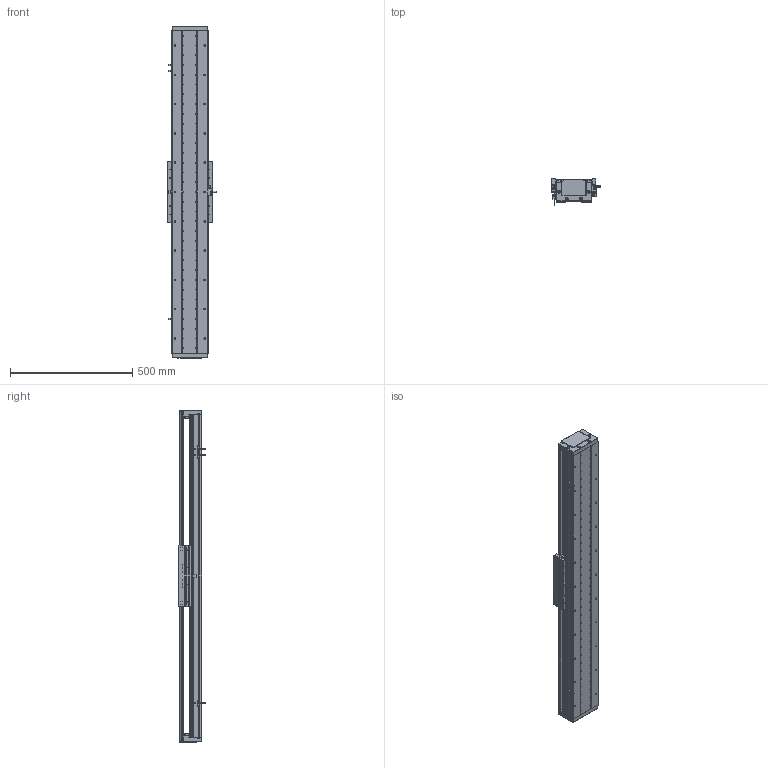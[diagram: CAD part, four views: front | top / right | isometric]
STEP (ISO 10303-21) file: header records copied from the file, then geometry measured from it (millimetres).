
FILE_DESCRIPTION (( 'STEP AP203' ), '1' );
FILE_NAME ('DA-C145-C3-T1020-C010-0.2 眻盄萇儂.STEP', '2025-08-14T01:20:17', ( '' ), ( '' ), 'SwSTEP 2.0', 'SolidWorks 2019', '' );
FILE_SCHEMA (( 'CONFIG_CONTROL_DESIGN' ));
Length unit declared in the file: millimetre
Products named in the file (29): 葩璃 DA145-C3-DP-B-00 菜えB^CU145-W 幗紩賑怢; 复件 DA145-C3-YB-B-00 压板B^CU145-W 滚珠滑台; 复件 DA95-MFP-01 密封片^CU145-W 滚珠滑台; CU145-W-00 珨极趙賑雄怢啣; 葩璃 DA145-T-003-00 裔啣^DA-C145-C3-T-C010-0.2; 复件 DA145-C3-YB-A-00 压板A^CU145-W 滚珠滑台; 复件 DA95-HK-GT-00 滑块钢轨^CU145-W-00 一体化滑动台板; 复件 纯铜油杯 6x6mm^CU145-W 滚珠滑台; 葩璃 鞠褒情蹟譫 M3^DA-C145-C3-T-C010-0.2; CU145-W 幗紩賑怢; 葩璃 DA95-GT-T-00^IU-CU145-L 菁釱絳寢; 葩璃 PM-T45^DA-C145-C3-T-C010-0.2; TAY01-M8; IU-CU145-L-00 菁釱(L1320); 葩璃 DA145-C3-DP-A-00 菜えA^CU145-W 幗紩賑怢; DA-C145-C3-T1020-C010-0.2 眻盄萇儂; 葩璃 DMA-010-0.2 黍杅芛^DA-C145-C3-T-C010-0.2; 葩璃 CKM03-W060-C1C2-TP-0.2^DA-C145-C3-T-C010-0.2; 66245-CU145-HT-W-00 賑雄怢啣(3D芞祧)(00); 复件 DA95-DB-00  挡板^CU145-W 滚珠滑台; 复件 DA145-GYP-00 光电感应片^DA-C145-C3-T-C010-0.2; 葩璃 CKMA01-W060-TRL^DA-C145-C3-T-C010-0.2; 复件 半圆头内六角螺钉 M3×6^CU145-W 滚珠滑台; 葩璃 DA145-DG-H-N-00 傷裔^DA-C145-C3-T-C010-0.2; IU-CU145-L 菁釱絳寢; 葩璃 XD-U-02L 棠掑喜^DA-C145-C3-T-C010-0.2; 复件 内六角平端紧定螺钉 GB.T77-2000 M5×10^CU145-W 滚珠滑台; 葩璃 DA95-HXJ-00 遣喳砎蝶^DA-C145-C3-T-C010-0.2; 复件 DA145-C3-DK-00 挡块^CU145-W 滚珠滑台
Assembly tree (98 placements, depth 4):
  DA-C145-C3-T1020-C010-0.2 眻盄萇儂
    IU-CU145-L 菁釱絳寢
      IU-CU145-L-00 菁釱(L1320)
      葩璃 DA95-GT-T-00^IU-CU145-L 菁釱絳寢  x4
    CU145-W 幗紩賑怢
      CU145-W-00 珨极趙賑雄怢啣
        66245-CU145-HT-W-00 賑雄怢啣(3D芞祧)(00)
        复件 DA95-HK-GT-00 滑块钢轨^CU145-W-00 一体化滑动台板  x8
      复件 DA95-MFP-01 密封片^CU145-W 滚珠滑台  x8
      复件 DA95-DB-00  挡板^CU145-W 滚珠滑台  x8
      复件 内六角平端紧定螺钉 GB.T77-2000 M5×10^CU145-W 滚珠滑台  x4
      复件 纯铜油杯 6x6mm^CU145-W 滚珠滑台  x4
      复件 半圆头内六角螺钉 M3×6^CU145-W 滚珠滑台  x16
      复件 DA145-C3-DK-00 挡块^CU145-W 滚珠滑台  x4
      葩璃 DA145-C3-DP-B-00 菜えB^CU145-W 幗紩賑怢  x2
      复件 DA145-C3-YB-B-00 压板B^CU145-W 滚珠滑台  x2
      葩璃 DA145-C3-DP-A-00 菜えA^CU145-W 幗紩賑怢  x3
      复件 DA145-C3-YB-A-00 压板A^CU145-W 滚珠滑台  x3
      TAY01-M8  x4
    葩璃 CKMA01-W060-TRL^DA-C145-C3-T-C010-0.2
    葩璃 PM-T45^DA-C145-C3-T-C010-0.2  x3
    葩璃 XD-U-02L 棠掑喜^DA-C145-C3-T-C010-0.2
    葩璃 DA145-DG-H-N-00 傷裔^DA-C145-C3-T-C010-0.2  x2
    葩璃 DA145-T-003-00 裔啣^DA-C145-C3-T-C010-0.2
    葩璃 DA95-HXJ-00 遣喳砎蝶^DA-C145-C3-T-C010-0.2  x4
    复件 DA145-GYP-00 光电感应片^DA-C145-C3-T-C010-0.2
    葩璃 DMA-010-0.2 黍杅芛^DA-C145-C3-T-C010-0.2
    葩璃 CKM03-W060-C1C2-TP-0.2^DA-C145-C3-T-C010-0.2
    葩璃 鞠褒情蹟譫 M3^DA-C145-C3-T-C010-0.2  x8
Bounding box: 203.5 x 108.45 x 1360 mm (x, y, z)
Volume: 8358591.3 mm3; surface area: 2502995 mm2
Topology: 95 solids, 127 shells, 4067 faces, 10995 edges, 6808 vertices
Faces by surface type: cylinder 1772, plane 1579, cone 626, torus 86, sphere 4
Entity records: 97689 total; most frequent: CARTESIAN_POINT 25638, DIRECTION 14041, ORIENTED_EDGE 13988, EDGE_CURVE 6994, AXIS2_PLACEMENT_3D 5232, VERTEX_POINT 4497, VECTOR 3577, LINE 3577
